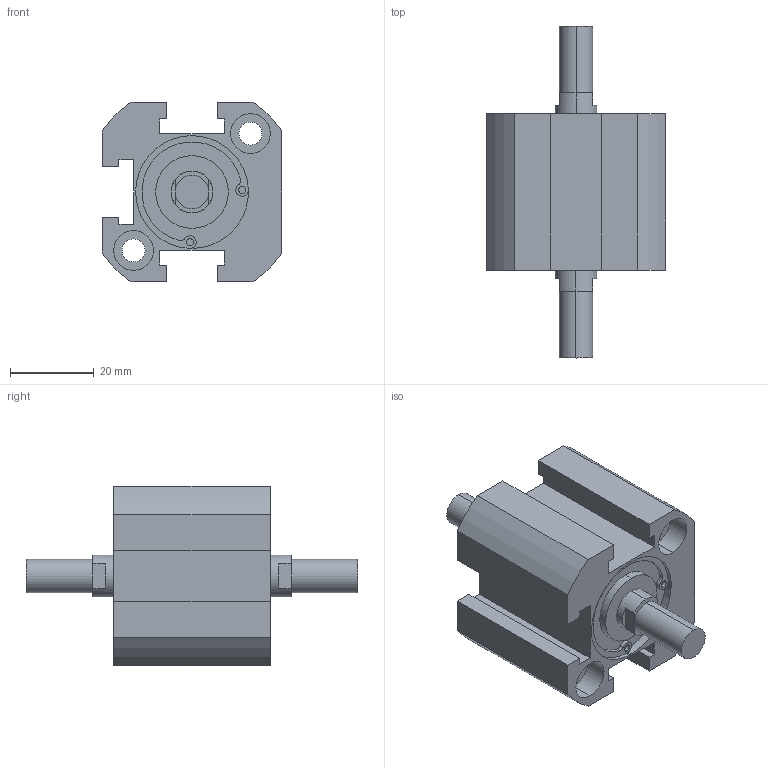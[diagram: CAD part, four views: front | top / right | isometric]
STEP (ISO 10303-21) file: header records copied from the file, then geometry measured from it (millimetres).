
FILE_DESCRIPTION (( 'STEP AP203' ), '1' );
FILE_NAME ('XG#M7-25-10.STEP', '2016-05-24T02:22:53', ( '' ), ( '' ), 'SwSTEP 2.0', 'SolidWorks 2014', '' );
FILE_SCHEMA (( 'CONFIG_CONTROL_DESIGN' ));
Length unit declared in the file: millimetre
Products named in the file (1): XG#M7-25-10
Bounding box: 43 x 79.5 x 43 mm (x, y, z)
Volume: 52748.8 mm3; surface area: 14777.3 mm2
Topology: 1 solids, 1 shells, 127 faces, 321 edges, 208 vertices
Faces by surface type: cylinder 65, plane 58, cone 4
Entity records: 3918 total; most frequent: DIRECTION 715, CARTESIAN_POINT 653, ORIENTED_EDGE 634, EDGE_CURVE 317, AXIS2_PLACEMENT_3D 270, VERTEX_POINT 208, VECTOR 175, LINE 175
